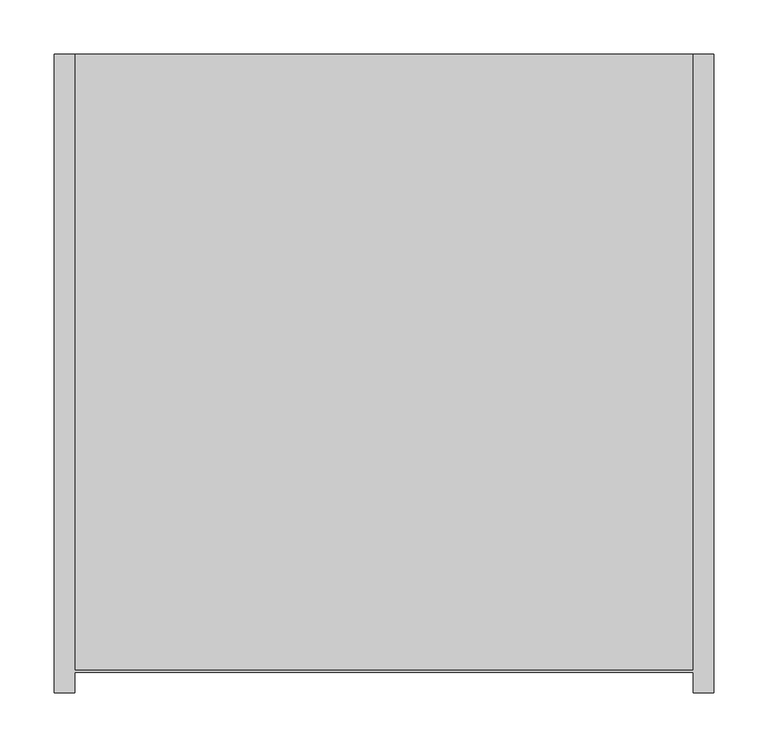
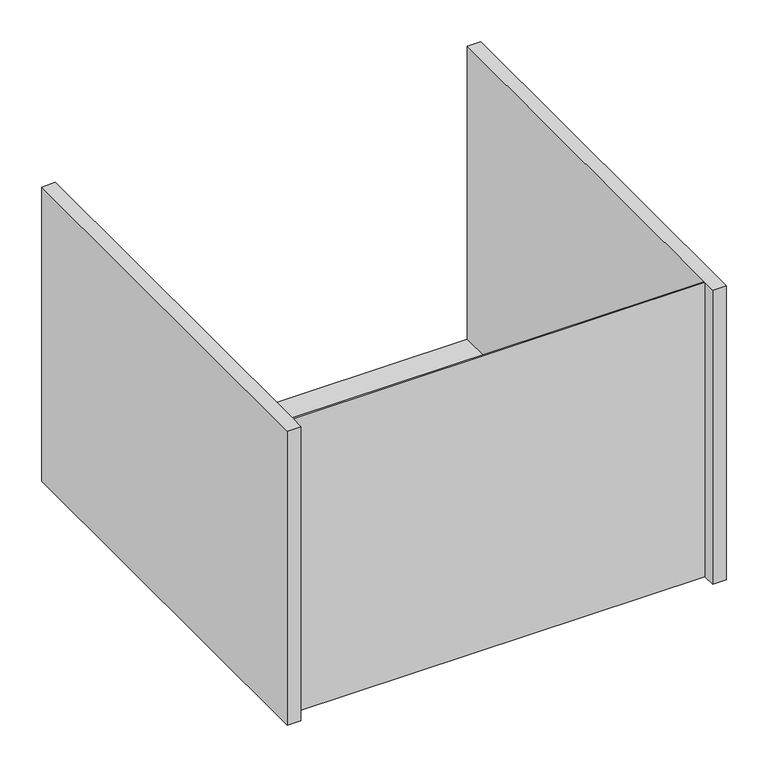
"""IFC4 building model written with IfcOpenShell, lengths in millimetres: furniture geometry."""

from ifc_helpers import new_model, si_unit, origin, place, context, project, spatial, faceted_brep, source, transform, mapped, element, save


def furniture_fc90cfd9(model_context):
    return source(origin(), model_context, "Body", "Brep", [
        faceted_brep([(285.75, -401.6375, 882.65), (-285.75, -401.6375, 882.65), (-285.75, 168.275, 882.65), (-304.8, 168.275, 882.65), (-304.8, -422.275, 882.65), (-285.75, -422.275, 882.65), (-285.75, -403.225, 882.65), (285.75, -403.225, 882.65), (285.75, -422.275, 882.65), (304.8, -422.275, 882.65), (304.8, 168.275, 882.65), (285.75, 168.275, 882.65), (-285.75, -403.225, 450.85), (285.75, -403.225, 450.85), (-285.75, -422.275, 450.85), (-304.8, -422.275, 450.85), (-304.8, 168.275, 450.85), (304.8, 168.275, 450.85), (304.8, -422.275, 450.85), (285.75, -422.275, 450.85), (-285.75, 168.275, 452.4375), (285.75, 168.275, 452.4375), (-285.75, -401.6375, 452.4375), (285.75, -401.6375, 452.4375)], [[[0, 1, 2, 3, 4, 5, 6, 7, 8, 9, 10, 11]], [[7, 6, 12, 13]], [[13, 12, 14, 15, 16, 17, 18, 19]], [[17, 16, 3, 2, 20, 21, 11, 10]], [[21, 20, 22, 23]], [[1, 0, 23, 22]], [[0, 11, 21, 23]], [[19, 8, 7, 13]], [[9, 8, 19, 18]], [[10, 9, 18, 17]], [[2, 1, 22, 20]], [[5, 14, 12, 6]], [[4, 3, 16, 15]], [[5, 4, 15, 14]]]),
    ])


if __name__ == "__main__":
    model = new_model("IFC4")
    model_context = context("Model", 3, world=origin())
    ifc_project = project(units=[si_unit("LENGTHUNIT", "METRE", prefix="MILLI")], contexts=[model_context])
    site = spatial("IfcSite", under=ifc_project)
    building = spatial("IfcBuilding", under=site)
    placement = place(None, origin())
    furniture_shape = furniture_fc90cfd9(model_context)
    element("IfcFurniture", 1, ObjectType="HermanMiller_CoStruc_C2512_SinkModule : 18\"H x 24\"D x 24\"W", at=placement, inside=building, context=model_context, shape_type="MappedRepresentation", body=[
        mapped(furniture_shape, transform((0.0, 0.0, 0.0), x_axis=(1.0, 0.0, 0.0), y_axis=(0.0, 1.0, 0.0), z_axis=(0.0, 0.0, 1.0))),
    ])
    save(model, "model.ifc")
